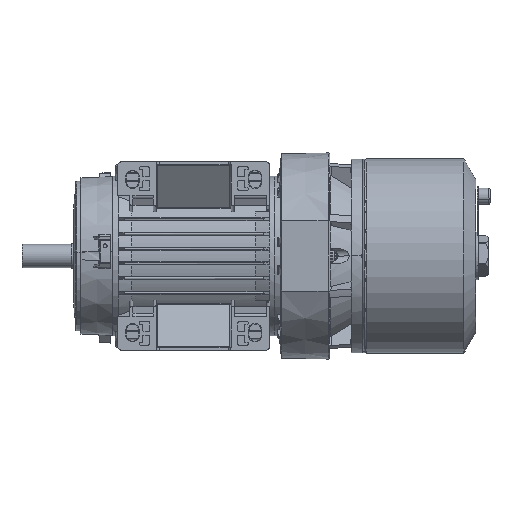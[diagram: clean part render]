
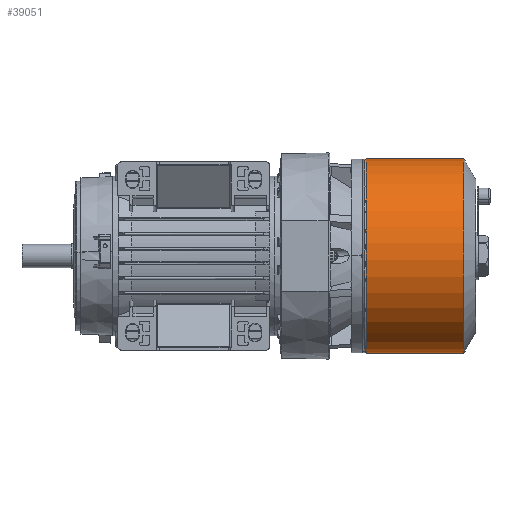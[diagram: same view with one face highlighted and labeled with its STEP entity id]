
A CAD part, front view. The second image highlights one B-rep face of the part: STEP entity #39051.
In plain terms, the highlighted cylindrical face has radius 79.2 mm (diameter 158.4 mm), a partial arc.
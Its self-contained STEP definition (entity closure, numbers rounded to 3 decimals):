
#4910 = VECTOR ( 'NONE', #52349, 1000. ) ;
#9248 = CARTESIAN_POINT ( 'NONE',  ( 0., 89., 79.2 ) ) ;
#19279 = ORIENTED_EDGE ( 'NONE', *, *, #84713, .F. ) ;
#19716 = ORIENTED_EDGE ( 'NONE', *, *, #36854, .T. ) ;
#19930 = VECTOR ( 'NONE', #75527, 1000. ) ;
#21188 = AXIS2_PLACEMENT_3D ( 'NONE', #25076, #86131, #33777 ) ;
#25076 = CARTESIAN_POINT ( 'NONE',  ( 0., 89., 0. ) ) ;
#28261 = DIRECTION ( 'NONE',  ( 0., 1., 0. ) ) ;
#33777 = DIRECTION ( 'NONE',  ( 0., 0., 1. ) ) ;
#35726 = EDGE_CURVE ( 'NONE', #90686, #79731, #58271, .T. ) ;
#36854 = EDGE_CURVE ( 'NONE', #79731, #43827, #97717, .T. ) ;
#39051 = ADVANCED_FACE ( 'NONE', ( #110034 ), #78638, .T. ) ;
#41500 = DIRECTION ( 'NONE',  ( 0., 0., 1. ) ) ;
#43827 = VERTEX_POINT ( 'NONE', #9248 ) ;
#50096 = EDGE_LOOP ( 'NONE', ( #76461, #93167, #19716, #19279 ) ) ;
#52349 = DIRECTION ( 'NONE',  ( 0., 1., 0. ) ) ;
#57972 = CARTESIAN_POINT ( 'NONE',  ( 0., 113.98, -79.2 ) ) ;
#57994 = AXIS2_PLACEMENT_3D ( 'NONE', #102599, #59082, #41500 ) ;
#58166 = CARTESIAN_POINT ( 'NONE',  ( 0., 9.642, -79.2 ) ) ;
#58271 = CIRCLE ( 'NONE', #107421, 79.2 ) ;
#59082 = DIRECTION ( 'NONE',  ( 0., 1., 0. ) ) ;
#68906 = EDGE_CURVE ( 'NONE', #90686, #105910, #92279, .T. ) ;
#75527 = DIRECTION ( 'NONE',  ( 0., 1., 0. ) ) ;
#76461 = ORIENTED_EDGE ( 'NONE', *, *, #68906, .F. ) ;
#78638 = CYLINDRICAL_SURFACE ( 'NONE', #57994, 79.2 ) ;
#79731 = VERTEX_POINT ( 'NONE', #96163 ) ;
#80559 = CARTESIAN_POINT ( 'NONE',  ( 0., 9.642, 0. ) ) ;
#84713 = EDGE_CURVE ( 'NONE', #105910, #43827, #89683, .T. ) ;
#86131 = DIRECTION ( 'NONE',  ( 0., 1., 0. ) ) ;
#89338 = DIRECTION ( 'NONE',  ( 0., 0., 1. ) ) ;
#89683 = CIRCLE ( 'NONE', #21188, 79.2 ) ;
#90686 = VERTEX_POINT ( 'NONE', #58166 ) ;
#92279 = LINE ( 'NONE', #57972, #19930 ) ;
#93167 = ORIENTED_EDGE ( 'NONE', *, *, #35726, .T. ) ;
#96163 = CARTESIAN_POINT ( 'NONE',  ( 0., 9.642, 79.2 ) ) ;
#96662 = CARTESIAN_POINT ( 'NONE',  ( 0., 89., -79.2 ) ) ;
#97717 = LINE ( 'NONE', #104638, #4910 ) ;
#102599 = CARTESIAN_POINT ( 'NONE',  ( 0., 113.98, 0. ) ) ;
#104638 = CARTESIAN_POINT ( 'NONE',  ( 0., 113.98, 79.2 ) ) ;
#105910 = VERTEX_POINT ( 'NONE', #96662 ) ;
#107421 = AXIS2_PLACEMENT_3D ( 'NONE', #80559, #28261, #89338 ) ;
#110034 = FACE_OUTER_BOUND ( 'NONE', #50096, .T. ) ;
